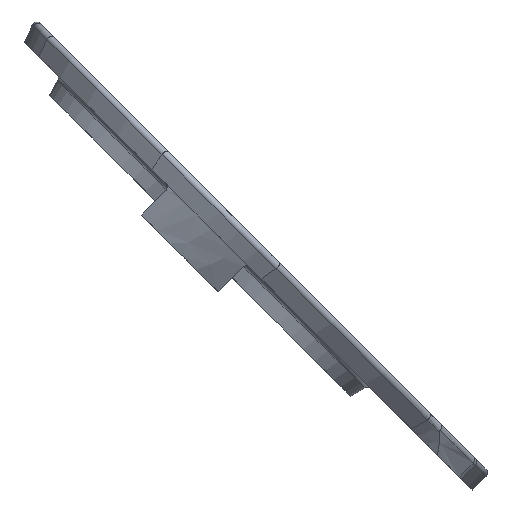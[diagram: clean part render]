
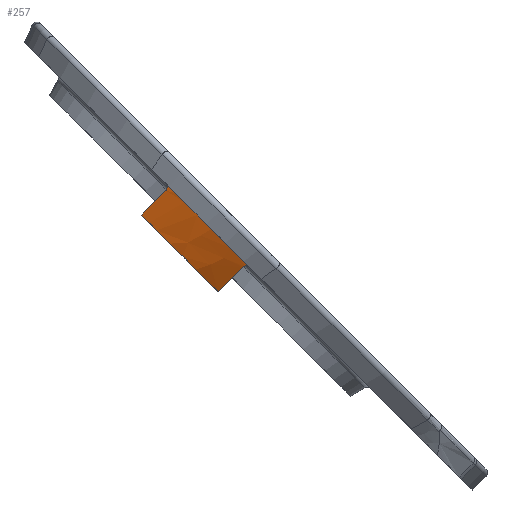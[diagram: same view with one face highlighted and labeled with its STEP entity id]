
A CAD part, left-side view. The second image highlights one B-rep face of the part: STEP entity #257.
In plain terms, the highlighted free-form (B-spline) face has degree [3, 3] with [10, 4] control points.
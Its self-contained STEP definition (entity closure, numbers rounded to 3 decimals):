
#150=B_SPLINE_SURFACE_WITH_KNOTS('',3,3,((#2633,#2634,#2635,#2636),(#2637,
#2638,#2639,#2640),(#2641,#2642,#2643,#2644),(#2645,#2646,#2647,#2648),(#2649,
#2650,#2651,#2652),(#2653,#2654,#2655,#2656),(#2657,#2658,#2659,#2660),(#2661,
#2662,#2663,#2664),(#2665,#2666,#2667,#2668),(#2669,#2670,#2671,#2672)),
 .UNSPECIFIED.,.F.,.F.,.F.,(4,3,3,4),(4,4),(0.,0.25,0.5,1.),(0.,1.),.UNSPECIFIED.);
#193=FACE_OUTER_BOUND('',#418,.T.);
#257=ADVANCED_FACE('',(#193),#150,.T.);
#418=EDGE_LOOP('',(#814,#815,#816,#817,#818,#819));
#587=B_SPLINE_CURVE_WITH_KNOTS('',3,(#1967,#1968,#1969,#1970,#1971,#1972),
 .UNSPECIFIED.,.F.,.F.,(4,2,4),(0.,0.5,1.),.UNSPECIFIED.);
#614=B_SPLINE_CURVE_WITH_KNOTS('',3,(#2562,#2563,#2564,#2565),.UNSPECIFIED.,
 .F.,.F.,(4,4),(0.,1.),.UNSPECIFIED.);
#615=B_SPLINE_CURVE_WITH_KNOTS('',3,(#2579,#2580,#2581,#2582),.UNSPECIFIED.,
 .F.,.F.,(4,4),(0.,1.),.UNSPECIFIED.);
#616=B_SPLINE_CURVE_WITH_KNOTS('',3,(#2591,#2592,#2593,#2594,#2595,#2596),
 .UNSPECIFIED.,.F.,.F.,(4,2,4),(0.,0.5,1.),.UNSPECIFIED.);
#617=B_SPLINE_CURVE_WITH_KNOTS('',3,(#2598,#2599,#2600,#2601,#2602,#2603,
#2604,#2605,#2606,#2607,#2608,#2609,#2610,#2611,#2612,#2613),.UNSPECIFIED.,
 .F.,.F.,(4,3,3,3,3,4),(0.,0.209,0.419,0.619,
0.815,1.),.UNSPECIFIED.);
#618=B_SPLINE_CURVE_WITH_KNOTS('',3,(#2614,#2615,#2616,#2617,#2618,#2619,
#2620,#2621,#2622,#2623,#2624,#2625,#2626,#2627,#2628,#2629,#2630,#2631,
#2632),.UNSPECIFIED.,.F.,.F.,(4,3,3,3,3,3,4),(0.,0.205,0.411,
0.6,0.78,0.967,1.),.UNSPECIFIED.);
#814=ORIENTED_EDGE('',*,*,#1114,.T.);
#815=ORIENTED_EDGE('',*,*,#1220,.T.);
#816=ORIENTED_EDGE('',*,*,#1208,.T.);
#817=ORIENTED_EDGE('',*,*,#1219,.F.);
#818=ORIENTED_EDGE('',*,*,#1214,.T.);
#819=ORIENTED_EDGE('',*,*,#1221,.T.);
#998=VERTEX_POINT('',#1973);
#999=VERTEX_POINT('',#1974);
#1065=VERTEX_POINT('',#2566);
#1066=VERTEX_POINT('',#2567);
#1071=VERTEX_POINT('',#2578);
#1072=VERTEX_POINT('',#2583);
#1114=EDGE_CURVE('',#998,#999,#587,.T.);
#1208=EDGE_CURVE('',#1065,#1066,#614,.T.);
#1214=EDGE_CURVE('',#1072,#1071,#615,.T.);
#1219=EDGE_CURVE('',#1072,#1066,#616,.T.);
#1220=EDGE_CURVE('',#999,#1065,#617,.T.);
#1221=EDGE_CURVE('',#1071,#998,#618,.T.);
#1967=CARTESIAN_POINT('',(57.661,93.372,210.018));
#1968=CARTESIAN_POINT('',(56.855,94.693,211.339));
#1969=CARTESIAN_POINT('',(56.345,96.129,212.775));
#1970=CARTESIAN_POINT('',(56.113,99.007,215.653));
#1971=CARTESIAN_POINT('',(56.366,100.478,217.124));
#1972=CARTESIAN_POINT('',(56.959,101.857,218.503));
#1973=CARTESIAN_POINT('',(57.661,93.372,210.018));
#1974=CARTESIAN_POINT('',(56.959,101.857,218.503));
#2562=CARTESIAN_POINT('',(56.953,101.857,217.796));
#2563=CARTESIAN_POINT('',(57.283,102.688,216.965));
#2564=CARTESIAN_POINT('',(57.644,103.513,216.141));
#2565=CARTESIAN_POINT('',(58.027,104.332,215.321));
#2566=CARTESIAN_POINT('',(56.953,101.857,217.796));
#2567=CARTESIAN_POINT('',(58.027,104.332,215.321));
#2578=CARTESIAN_POINT('',(57.655,94.079,210.018));
#2579=CARTESIAN_POINT('',(59.144,96.554,207.543));
#2580=CARTESIAN_POINT('',(58.635,95.733,208.364));
#2581=CARTESIAN_POINT('',(58.135,94.909,209.188));
#2582=CARTESIAN_POINT('',(57.655,94.079,210.018));
#2583=CARTESIAN_POINT('',(59.144,96.554,207.543));
#2591=CARTESIAN_POINT('',(59.144,96.554,207.543));
#2592=CARTESIAN_POINT('',(58.394,97.778,208.768));
#2593=CARTESIAN_POINT('',(57.862,99.043,210.032));
#2594=CARTESIAN_POINT('',(57.477,101.699,212.688));
#2595=CARTESIAN_POINT('',(57.599,103.028,214.017));
#2596=CARTESIAN_POINT('',(58.027,104.332,215.321));
#2598=CARTESIAN_POINT('',(56.959,101.857,218.503));
#2599=CARTESIAN_POINT('',(56.943,101.82,218.466));
#2600=CARTESIAN_POINT('',(56.929,101.787,218.421));
#2601=CARTESIAN_POINT('',(56.918,101.763,218.373));
#2602=CARTESIAN_POINT('',(56.908,101.739,218.324));
#2603=CARTESIAN_POINT('',(56.901,101.722,218.27));
#2604=CARTESIAN_POINT('',(56.897,101.715,218.215));
#2605=CARTESIAN_POINT('',(56.894,101.708,218.162));
#2606=CARTESIAN_POINT('',(56.895,101.71,218.108));
#2607=CARTESIAN_POINT('',(56.899,101.72,218.056));
#2608=CARTESIAN_POINT('',(56.902,101.729,218.005));
#2609=CARTESIAN_POINT('',(56.909,101.747,217.956));
#2610=CARTESIAN_POINT('',(56.919,101.771,217.911));
#2611=CARTESIAN_POINT('',(56.928,101.794,217.869));
#2612=CARTESIAN_POINT('',(56.94,101.824,217.83));
#2613=CARTESIAN_POINT('',(56.953,101.857,217.796));
#2614=CARTESIAN_POINT('',(57.655,94.079,210.018));
#2615=CARTESIAN_POINT('',(57.634,94.043,210.054));
#2616=CARTESIAN_POINT('',(57.616,94.,210.086));
#2617=CARTESIAN_POINT('',(57.602,93.953,210.11));
#2618=CARTESIAN_POINT('',(57.588,93.905,210.134));
#2619=CARTESIAN_POINT('',(57.578,93.852,210.151));
#2620=CARTESIAN_POINT('',(57.574,93.797,210.159));
#2621=CARTESIAN_POINT('',(57.57,93.747,210.167));
#2622=CARTESIAN_POINT('',(57.571,93.695,210.166));
#2623=CARTESIAN_POINT('',(57.576,93.645,210.158));
#2624=CARTESIAN_POINT('',(57.58,93.597,210.15));
#2625=CARTESIAN_POINT('',(57.59,93.551,210.135));
#2626=CARTESIAN_POINT('',(57.602,93.509,210.115));
#2627=CARTESIAN_POINT('',(57.615,93.465,210.094));
#2628=CARTESIAN_POINT('',(57.631,93.425,210.067));
#2629=CARTESIAN_POINT('',(57.651,93.39,210.035));
#2630=CARTESIAN_POINT('',(57.654,93.384,210.03));
#2631=CARTESIAN_POINT('',(57.657,93.378,210.024));
#2632=CARTESIAN_POINT('',(57.661,93.372,210.018));
#2633=CARTESIAN_POINT('',(58.106,92.319,209.357));
#2634=CARTESIAN_POINT('',(58.426,93.74,208.736));
#2635=CARTESIAN_POINT('',(58.788,95.14,208.115));
#2636=CARTESIAN_POINT('',(59.186,96.539,207.475));
#2637=CARTESIAN_POINT('',(57.578,93.079,210.123));
#2638=CARTESIAN_POINT('',(57.926,94.485,209.489));
#2639=CARTESIAN_POINT('',(58.314,95.87,208.854));
#2640=CARTESIAN_POINT('',(58.74,97.254,208.199));
#2641=CARTESIAN_POINT('',(57.14,93.832,210.865));
#2642=CARTESIAN_POINT('',(57.513,95.223,210.219));
#2643=CARTESIAN_POINT('',(57.926,96.594,209.572));
#2644=CARTESIAN_POINT('',(58.375,97.962,208.905));
#2645=CARTESIAN_POINT('',(56.823,94.609,211.621));
#2646=CARTESIAN_POINT('',(57.215,95.985,210.963));
#2647=CARTESIAN_POINT('',(57.648,97.34,210.303));
#2648=CARTESIAN_POINT('',(58.116,98.69,209.622));
#2649=CARTESIAN_POINT('',(56.505,95.387,212.378));
#2650=CARTESIAN_POINT('',(56.918,96.747,211.707));
#2651=CARTESIAN_POINT('',(57.37,98.085,211.034));
#2652=CARTESIAN_POINT('',(57.857,99.419,210.34));
#2653=CARTESIAN_POINT('',(56.299,96.189,213.152));
#2654=CARTESIAN_POINT('',(56.729,97.532,212.467));
#2655=CARTESIAN_POINT('',(57.196,98.852,211.78));
#2656=CARTESIAN_POINT('',(57.699,100.168,211.071));
#2657=CARTESIAN_POINT('',(56.206,97.005,213.935));
#2658=CARTESIAN_POINT('',(56.647,98.329,213.236));
#2659=CARTESIAN_POINT('',(57.126,99.631,212.533));
#2660=CARTESIAN_POINT('',(57.641,100.927,211.809));
#2661=CARTESIAN_POINT('',(56.018,98.635,215.502));
#2662=CARTESIAN_POINT('',(56.484,99.923,214.773));
#2663=CARTESIAN_POINT('',(56.987,101.189,214.041));
#2664=CARTESIAN_POINT('',(57.524,102.447,213.286));
#2665=CARTESIAN_POINT('',(56.285,100.307,217.09));
#2666=CARTESIAN_POINT('',(56.76,101.556,216.33));
#2667=CARTESIAN_POINT('',(57.271,102.783,215.565));
#2668=CARTESIAN_POINT('',(57.814,103.999,214.777));
#2669=CARTESIAN_POINT('',(56.975,101.892,218.57));
#2670=CARTESIAN_POINT('',(57.443,103.104,217.78));
#2671=CARTESIAN_POINT('',(57.948,104.295,216.983));
#2672=CARTESIAN_POINT('',(58.483,105.473,216.164));
